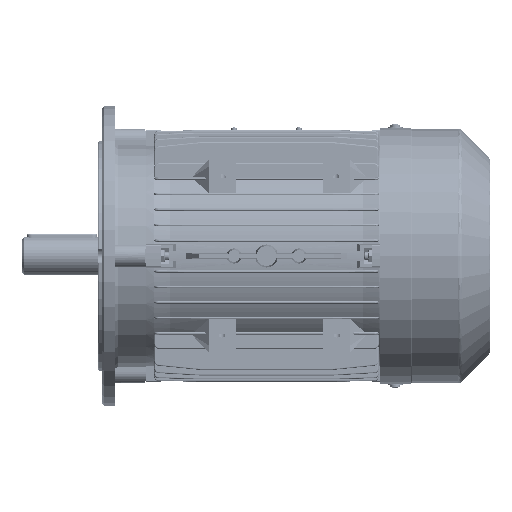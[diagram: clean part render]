
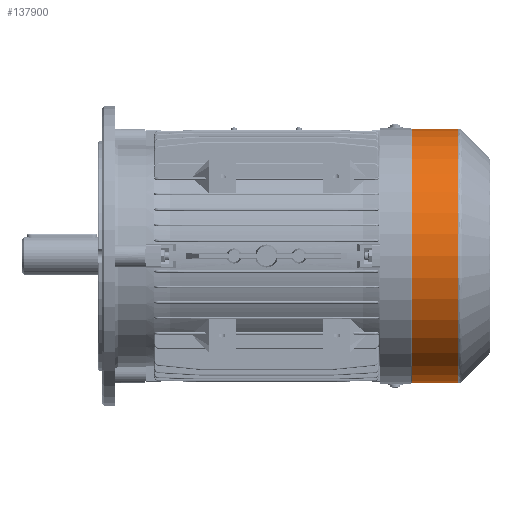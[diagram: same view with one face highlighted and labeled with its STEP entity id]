
A CAD part, front view. The second image highlights one B-rep face of the part: STEP entity #137900.
In plain terms, the highlighted cylindrical face has radius 127.4 mm (diameter 254.8 mm), a full revolution.
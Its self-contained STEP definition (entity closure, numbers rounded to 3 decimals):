
#3615 = FACE_OUTER_BOUND ( 'NONE', #12415, .T. ) ;
#7792 = AXIS2_PLACEMENT_3D ( 'NONE', #156002, #167584, #182899 ) ;
#12415 = EDGE_LOOP ( 'NONE', ( #138074 ) ) ;
#14004 = EDGE_CURVE ( 'NONE', #96539, #96539, #49192, .T. ) ;
#18703 = AXIS2_PLACEMENT_3D ( 'NONE', #47095, #32733, #90259 ) ;
#30536 = FACE_OUTER_BOUND ( 'NONE', #118019, .T. ) ;
#32733 = DIRECTION ( 'NONE',  ( -1., 0., 0. ) ) ;
#47095 = CARTESIAN_POINT ( 'NONE',  ( 206.404, 0., 0. ) ) ;
#49192 = CIRCLE ( 'NONE', #18703, 127.4 ) ;
#56930 = AXIS2_PLACEMENT_3D ( 'NONE', #120525, #179003, #161751 ) ;
#68179 = VERTEX_POINT ( 'NONE', #99814 ) ;
#90259 = DIRECTION ( 'NONE',  ( 0., 0., 1. ) ) ;
#96539 = VERTEX_POINT ( 'NONE', #110914 ) ;
#99814 = CARTESIAN_POINT ( 'NONE',  ( 159.421, 0., 127.4 ) ) ;
#109211 = ORIENTED_EDGE ( 'NONE', *, *, #166915, .T. ) ;
#110914 = CARTESIAN_POINT ( 'NONE',  ( 206.404, 0., 127.4 ) ) ;
#118019 = EDGE_LOOP ( 'NONE', ( #109211 ) ) ;
#120525 = CARTESIAN_POINT ( 'NONE',  ( 257.365, 0., 0. ) ) ;
#132055 = CYLINDRICAL_SURFACE ( 'NONE', #56930, 127.4 ) ;
#137900 = ADVANCED_FACE ( 'NONE', ( #3615, #30536 ), #132055, .T. ) ;
#138074 = ORIENTED_EDGE ( 'NONE', *, *, #14004, .T. ) ;
#156002 = CARTESIAN_POINT ( 'NONE',  ( 159.421, 0., 0. ) ) ;
#161751 = DIRECTION ( 'NONE',  ( 0., 0., 1. ) ) ;
#163897 = CIRCLE ( 'NONE', #7792, 127.4 ) ;
#166915 = EDGE_CURVE ( 'NONE', #68179, #68179, #163897, .T. ) ;
#167584 = DIRECTION ( 'NONE',  ( 1., 0., 0. ) ) ;
#179003 = DIRECTION ( 'NONE',  ( 1., 0., 0. ) ) ;
#182899 = DIRECTION ( 'NONE',  ( 0., 0., 1. ) ) ;
